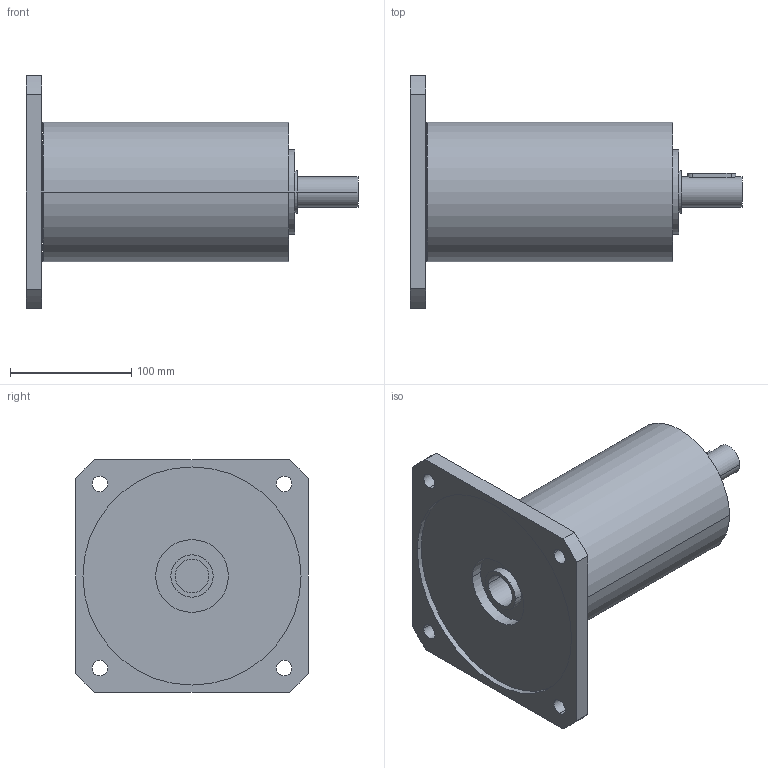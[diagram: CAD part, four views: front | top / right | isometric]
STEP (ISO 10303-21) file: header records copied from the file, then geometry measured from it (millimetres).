
FILE_DESCRIPTION(('CoCreate Modeling STEP Export'),'2;1');
FILE_NAME('GPR125_ig-48-64-80-100-140-196-245-343_25_B14_28_P09.stp','2014-08-26T14:22:49',(''),(''),'CoCreate Modeling STEP processor for AP214 (Solid Model)','CoCreate Modeling 16.00C 25-Feb-2009 (C) Parametric Technology GmbH','');
FILE_SCHEMA(('AUTOMOTIVE_DESIGN { 1 0 10303 214 1 1 1 1 }'));
Length unit declared in the file: millimetre
Products named in the file (2): GPR125_ig-48-64-80-100-140-196-245-343_25_B14_28_P09
Assembly tree (1 placements, depth 2):
  GPR125_ig-48-64-80-100-140-196-245-343_25_B14_28_P09
    GPR125_ig-48-64-80-100-140-196-245-343_25_B14_28_P09
Bounding box: 274 x 192 x 192 mm (x, y, z)
Volume: 2450889.2 mm3; surface area: 188142.9 mm2
Topology: 1 solids, 1 shells, 68 faces, 188 edges, 134 vertices
Faces by surface type: cylinder 42, plane 22, cone 4
Entity records: 1928 total; most frequent: ORIENTED_EDGE 372, CARTESIAN_POINT 363, DIRECTION 258, EDGE_CURVE 186, VERTEX_POINT 134, AXIS2_PLACEMENT_3D 97, EDGE_LOOP 90, FACE_OUTER_BOUND 68
